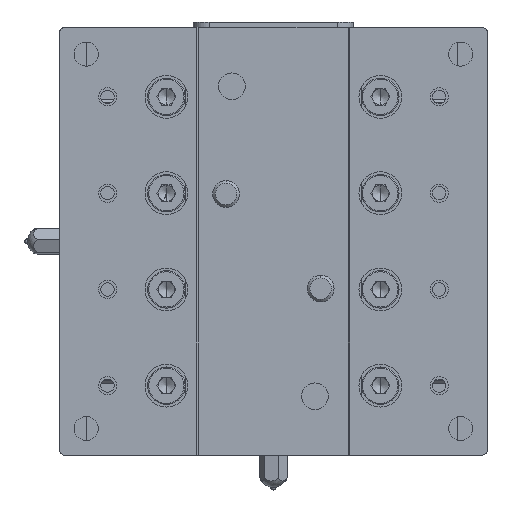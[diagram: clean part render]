
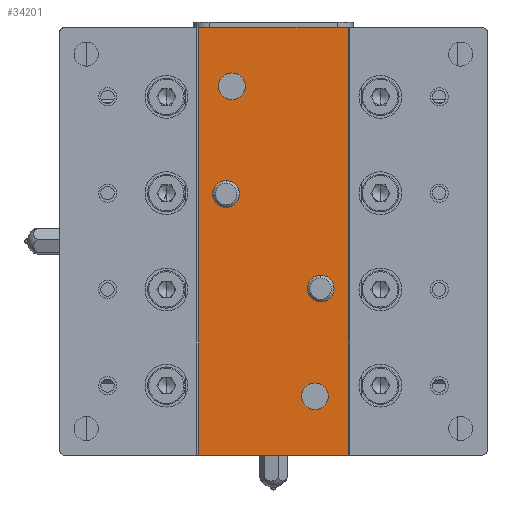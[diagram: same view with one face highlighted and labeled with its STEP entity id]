
A CAD part, front view. The second image highlights one B-rep face of the part: STEP entity #34201.
In plain terms, the highlighted planar face has unit normal (0, -1, 0).
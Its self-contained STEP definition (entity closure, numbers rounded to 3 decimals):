
#32 = DIRECTION ( 'NONE',  ( -1., 0., 0. ) ) ;
#624 = DIRECTION ( 'NONE',  ( 0., -1., 0. ) ) ;
#770 = LINE ( 'NONE', #31370, #15269 ) ;
#1214 = ORIENTED_EDGE ( 'NONE', *, *, #10993, .F. ) ;
#2330 = DIRECTION ( 'NONE',  ( -1., 0., 0. ) ) ;
#2783 = EDGE_CURVE ( 'NONE', #20703, #14663, #770, .T. ) ;
#2815 = CARTESIAN_POINT ( 'NONE',  ( -14., 0.3, -40. ) ) ;
#3278 = EDGE_CURVE ( 'NONE', #31237, #20703, #21236, .T. ) ;
#3777 = CARTESIAN_POINT ( 'NONE',  ( -8.839, 0.3, 8.839 ) ) ;
#3863 = ORIENTED_EDGE ( 'NONE', *, *, #18093, .F. ) ;
#4433 = CARTESIAN_POINT ( 'NONE',  ( -7.765, 0.3, 26.478 ) ) ;
#4862 = VERTEX_POINT ( 'NONE', #26059 ) ;
#6194 = VERTEX_POINT ( 'NONE', #29214 ) ;
#6409 = DIRECTION ( 'NONE',  ( -1., 0., 0. ) ) ;
#6470 = EDGE_CURVE ( 'NONE', #29804, #14663, #24507, .T. ) ;
#6675 = DIRECTION ( 'NONE',  ( -1., 0., 0. ) ) ;
#6884 = EDGE_LOOP ( 'NONE', ( #21996, #3863 ) ) ;
#7022 = CARTESIAN_POINT ( 'NONE',  ( -14., 0.3, 40. ) ) ;
#7096 = VERTEX_POINT ( 'NONE', #32895 ) ;
#7642 = EDGE_CURVE ( 'NONE', #31237, #29804, #33321, .T. ) ;
#8118 = AXIS2_PLACEMENT_3D ( 'NONE', #37625, #19745, #2330 ) ;
#8855 = CARTESIAN_POINT ( 'NONE',  ( -7.765, 0.3, 31.478 ) ) ;
#8982 = VERTEX_POINT ( 'NONE', #8855 ) ;
#9481 = ORIENTED_EDGE ( 'NONE', *, *, #6470, .T. ) ;
#10183 = ORIENTED_EDGE ( 'NONE', *, *, #16709, .F. ) ;
#10219 = CARTESIAN_POINT ( 'NONE',  ( 7.765, 0.3, -26.478 ) ) ;
#10275 = CARTESIAN_POINT ( 'NONE',  ( -7.765, 0.3, 28.978 ) ) ;
#10638 = AXIS2_PLACEMENT_3D ( 'NONE', #10275, #30913, #13176 ) ;
#10651 = EDGE_CURVE ( 'NONE', #6194, #7096, #37832, .T. ) ;
#10729 = VERTEX_POINT ( 'NONE', #13572 ) ;
#10993 = EDGE_CURVE ( 'NONE', #25949, #10729, #35455, .T. ) ;
#11196 = ORIENTED_EDGE ( 'NONE', *, *, #3278, .F. ) ;
#11999 = CIRCLE ( 'NONE', #14898, 2.5 ) ;
#12498 = VECTOR ( 'NONE', #21948, 1000. ) ;
#12742 = CARTESIAN_POINT ( 'NONE',  ( 7.765, 0.3, -28.978 ) ) ;
#13176 = DIRECTION ( 'NONE',  ( -1., 0., 0. ) ) ;
#13210 = EDGE_LOOP ( 'NONE', ( #18420, #13358 ) ) ;
#13358 = ORIENTED_EDGE ( 'NONE', *, *, #22972, .F. ) ;
#13418 = CIRCLE ( 'NONE', #33487, 2.5 ) ;
#13572 = CARTESIAN_POINT ( 'NONE',  ( 7.765, 0.3, -31.478 ) ) ;
#14595 = EDGE_LOOP ( 'NONE', ( #22988, #11196, #23338, #9481 ) ) ;
#14663 = VERTEX_POINT ( 'NONE', #30290 ) ;
#14898 = AXIS2_PLACEMENT_3D ( 'NONE', #17994, #624, #20978 ) ;
#15269 = VECTOR ( 'NONE', #24856, 1000. ) ;
#15366 = DIRECTION ( 'NONE',  ( 0., 0., 1. ) ) ;
#15659 = DIRECTION ( 'NONE',  ( -1., 0., 0. ) ) ;
#16295 = VERTEX_POINT ( 'NONE', #4433 ) ;
#16709 = EDGE_CURVE ( 'NONE', #7096, #6194, #13418, .T. ) ;
#16725 = AXIS2_PLACEMENT_3D ( 'NONE', #18462, #18338, #6409 ) ;
#16961 = DIRECTION ( 'NONE',  ( 0., -1., 0. ) ) ;
#17379 = DIRECTION ( 'NONE',  ( 0., 1., 0. ) ) ;
#17396 = CARTESIAN_POINT ( 'NONE',  ( 14., 0.3, -40. ) ) ;
#17994 = CARTESIAN_POINT ( 'NONE',  ( -7.765, 0.3, 28.978 ) ) ;
#18093 = EDGE_CURVE ( 'NONE', #8982, #16295, #26750, .T. ) ;
#18338 = DIRECTION ( 'NONE',  ( 0., -1., 0. ) ) ;
#18420 = ORIENTED_EDGE ( 'NONE', *, *, #29462, .F. ) ;
#18462 = CARTESIAN_POINT ( 'NONE',  ( 7.765, 0.3, -28.978 ) ) ;
#18470 = VERTEX_POINT ( 'NONE', #20597 ) ;
#19745 = DIRECTION ( 'NONE',  ( 0., -1., 0. ) ) ;
#20597 = CARTESIAN_POINT ( 'NONE',  ( 6.339, 0.3, -8.839 ) ) ;
#20703 = VERTEX_POINT ( 'NONE', #36443 ) ;
#20940 = DIRECTION ( 'NONE',  ( -1., 0., 0. ) ) ;
#20978 = DIRECTION ( 'NONE',  ( -1., 0., 0. ) ) ;
#21214 = ORIENTED_EDGE ( 'NONE', *, *, #10651, .F. ) ;
#21236 = LINE ( 'NONE', #24334, #12498 ) ;
#21249 = AXIS2_PLACEMENT_3D ( 'NONE', #25060, #24273, #24143 ) ;
#21756 = CIRCLE ( 'NONE', #26769, 2.5 ) ;
#21948 = DIRECTION ( 'NONE',  ( -1., 0., 0. ) ) ;
#21996 = ORIENTED_EDGE ( 'NONE', *, *, #36878, .F. ) ;
#22188 = CARTESIAN_POINT ( 'NONE',  ( 14., 0.3, 40. ) ) ;
#22280 = FACE_BOUND ( 'NONE', #25038, .T. ) ;
#22972 = EDGE_CURVE ( 'NONE', #4862, #18470, #35135, .T. ) ;
#22988 = ORIENTED_EDGE ( 'NONE', *, *, #2783, .F. ) ;
#23225 = FACE_BOUND ( 'NONE', #13210, .T. ) ;
#23338 = ORIENTED_EDGE ( 'NONE', *, *, #7642, .T. ) ;
#23581 = VECTOR ( 'NONE', #20940, 1000. ) ;
#24143 = DIRECTION ( 'NONE',  ( -1., 0., 0. ) ) ;
#24232 = DIRECTION ( 'NONE',  ( 0., -1., 0. ) ) ;
#24273 = DIRECTION ( 'NONE',  ( 0., -1., 0. ) ) ;
#24301 = CARTESIAN_POINT ( 'NONE',  ( 14., 0.3, -40. ) ) ;
#24334 = CARTESIAN_POINT ( 'NONE',  ( -14., 0.3, -40. ) ) ;
#24507 = LINE ( 'NONE', #7022, #23581 ) ;
#24856 = DIRECTION ( 'NONE',  ( 0., 0., 1. ) ) ;
#25038 = EDGE_LOOP ( 'NONE', ( #27116, #1214 ) ) ;
#25060 = CARTESIAN_POINT ( 'NONE',  ( -8.839, 0.3, 8.839 ) ) ;
#25419 = VECTOR ( 'NONE', #15366, 1000. ) ;
#25949 = VERTEX_POINT ( 'NONE', #10219 ) ;
#26059 = CARTESIAN_POINT ( 'NONE',  ( 11.339, 0.3, -8.839 ) ) ;
#26242 = PLANE ( 'NONE',  #30986 ) ;
#26750 = CIRCLE ( 'NONE', #10638, 2.5 ) ;
#26769 = AXIS2_PLACEMENT_3D ( 'NONE', #12742, #33447, #15659 ) ;
#27116 = ORIENTED_EDGE ( 'NONE', *, *, #34828, .F. ) ;
#29214 = CARTESIAN_POINT ( 'NONE',  ( -6.339, 0.3, 8.839 ) ) ;
#29271 = FACE_BOUND ( 'NONE', #31701, .T. ) ;
#29462 = EDGE_CURVE ( 'NONE', #18470, #4862, #35095, .T. ) ;
#29804 = VERTEX_POINT ( 'NONE', #22188 ) ;
#30290 = CARTESIAN_POINT ( 'NONE',  ( -14., 0.3, 40. ) ) ;
#30913 = DIRECTION ( 'NONE',  ( 0., -1., 0. ) ) ;
#30986 = AXIS2_PLACEMENT_3D ( 'NONE', #2815, #17379, #32 ) ;
#31237 = VERTEX_POINT ( 'NONE', #17396 ) ;
#31370 = CARTESIAN_POINT ( 'NONE',  ( -14., 0.3, -40. ) ) ;
#31701 = EDGE_LOOP ( 'NONE', ( #10183, #21214 ) ) ;
#32895 = CARTESIAN_POINT ( 'NONE',  ( -11.339, 0.3, 8.839 ) ) ;
#33321 = LINE ( 'NONE', #24301, #25419 ) ;
#33447 = DIRECTION ( 'NONE',  ( 0., -1., 0. ) ) ;
#33487 = AXIS2_PLACEMENT_3D ( 'NONE', #3777, #24232, #6675 ) ;
#34201 = ADVANCED_FACE ( 'NONE', ( #38151, #23225, #37215, #29271, #22280 ), #26242, .F. ) ;
#34806 = CARTESIAN_POINT ( 'NONE',  ( 8.839, 0.3, -8.839 ) ) ;
#34828 = EDGE_CURVE ( 'NONE', #10729, #25949, #21756, .T. ) ;
#35095 = CIRCLE ( 'NONE', #8118, 2.5 ) ;
#35135 = CIRCLE ( 'NONE', #37158, 2.5 ) ;
#35455 = CIRCLE ( 'NONE', #16725, 2.5 ) ;
#36443 = CARTESIAN_POINT ( 'NONE',  ( -14., 0.3, -40. ) ) ;
#36878 = EDGE_CURVE ( 'NONE', #16295, #8982, #11999, .T. ) ;
#37158 = AXIS2_PLACEMENT_3D ( 'NONE', #34806, #16961, #37816 ) ;
#37215 = FACE_OUTER_BOUND ( 'NONE', #14595, .T. ) ;
#37625 = CARTESIAN_POINT ( 'NONE',  ( 8.839, 0.3, -8.839 ) ) ;
#37816 = DIRECTION ( 'NONE',  ( -1., 0., 0. ) ) ;
#37832 = CIRCLE ( 'NONE', #21249, 2.5 ) ;
#38151 = FACE_BOUND ( 'NONE', #6884, .T. ) ;
